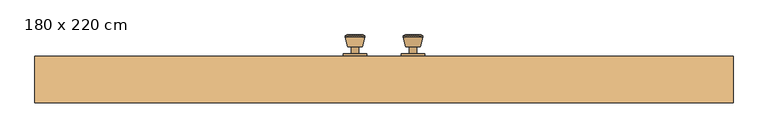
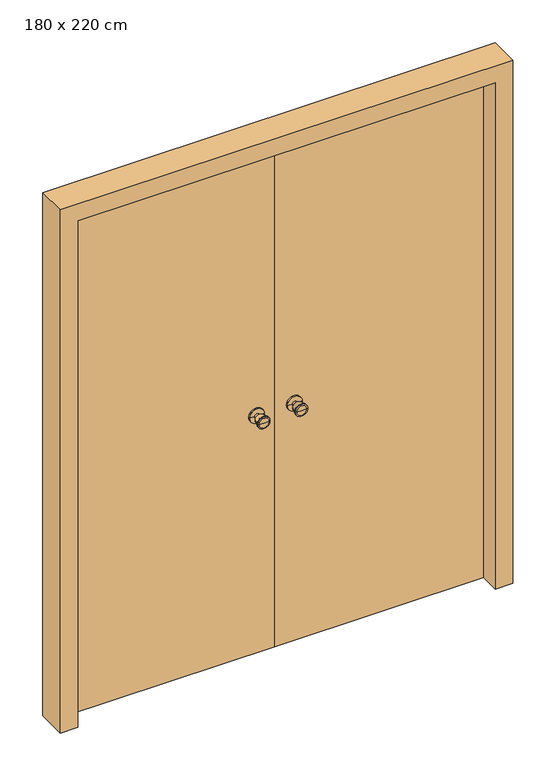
"""IFC4 building model written with IfcOpenShell, lengths in millimetres: door geometry, 雙開-矩形- (1) : 180 x 220 cm."""

from ifc_helpers import new_model, si_unit, frame, origin, origin_with_axes, place, context, project, spatial, polyline, circle_curve, outline, extrude, faceted_brep, source, transform, mapped, element, save
from ifc_brep_helpers import plane_surface, cylinder_surface, revolved_surface, advanced_brep


def door_180_x_220_cm_38ff8c34(model_context):
    return source(origin(), model_context, "Body", "SolidModel", [
        advanced_brep(
        [(45.0, 66.0, 1000.0), (105.0, 66.0, 1000.0), (105.0, 60.0, 1000.0), (45.0, 60.0, 1000.0), (65.0, 66.0, 1000.0), (85.0, 66.0, 1000.0), (65.0, 85.0, 1000.0), (85.0, 85.0, 1000.0), (56.4, 85.0, 1000.0), (93.6, 85.0, 1000.0), (50.0, 109.7, 1000.0), (100.0, 109.7, 1000.0), (50.0, 113.2, 1000.0), (100.0, 113.2, 1000.0), (54.5, 115.0, 1000.0), (95.5, 115.0, 1000.0), (75.0, 115.0, 1000.0), (75.0, 60.0, 1000.0)],
        [
            (0, 1, circle_curve(frame((75.0, 66.0, 1000.0), z_axis=(0.0, -1.0, 0.0), x_axis=(1.0, 0.0, 0.0)), 30.0)),
            (1, 2),
            (2, 3, circle_curve(frame((75.0, 60.0, 1000.0), z_axis=(0.0, 1.0, 0.0), x_axis=(1.0, 0.0, 0.0)), 30.0)),
            (3, 0),
            (1, 0, circle_curve(frame((75.0, 66.0, 1000.0), z_axis=(0.0, -1.0, 0.0), x_axis=(1.0, 0.0, 0.0)), 30.0)),
            (3, 2, circle_curve(frame((75.0, 60.0, 1000.0), z_axis=(0.0, 1.0, 0.0), x_axis=(1.0, 0.0, 0.0)), 30.0)),
            (4, 5, circle_curve(frame((75.0, 66.0, 1000.0), z_axis=(0.0, -1.0, 0.0), x_axis=(1.0, 0.0, 0.0)), 10.0)),
            (5, 1),
            (0, 4),
            (5, 4, circle_curve(frame((75.0, 66.0, 1000.0), z_axis=(0.0, -1.0, 0.0), x_axis=(1.0, 0.0, 0.0)), 10.0)),
            (6, 7, circle_curve(frame((75.0, 85.0, 1000.0), z_axis=(0.0, -1.0, 0.0), x_axis=(1.0, 0.0, 0.0)), 10.0)),
            (7, 5),
            (4, 6),
            (7, 6, circle_curve(frame((75.0, 85.0, 1000.0), z_axis=(0.0, -1.0, 0.0), x_axis=(1.0, 0.0, 0.0)), 10.0)),
            (8, 9, circle_curve(frame((75.0, 85.0, 1000.0), z_axis=(0.0, -1.0, 0.0), x_axis=(1.0, 0.0, 0.0)), 18.6)),
            (9, 7),
            (6, 8),
            (9, 8, circle_curve(frame((75.0, 85.0, 1000.0), z_axis=(0.0, -1.0, 0.0), x_axis=(1.0, 0.0, 0.0)), 18.6)),
            (10, 11, circle_curve(frame((75.0, 109.7, 1000.0), z_axis=(0.0, -1.0, 0.0), x_axis=(1.0, 0.0, 0.0)), 25.0)),
            (11, 9),
            (8, 10),
            (11, 10, circle_curve(frame((75.0, 109.7, 1000.0), z_axis=(0.0, -1.0, 0.0), x_axis=(1.0, 0.0, 0.0)), 25.0)),
            (12, 13, circle_curve(frame((75.0, 113.2, 1000.0), z_axis=(0.0, -1.0, 0.0), x_axis=(1.0, 0.0, 0.0)), 25.0)),
            (13, 11),
            (10, 12),
            (13, 12, circle_curve(frame((75.0, 113.2, 1000.0), z_axis=(0.0, -1.0, 0.0), x_axis=(1.0, 0.0, 0.0)), 25.0)),
            (14, 15, circle_curve(frame((75.0, 115.0, 1000.0), z_axis=(0.0, -1.0, 0.0), x_axis=(1.0, 0.0, 0.0)), 20.5)),
            (15, 13),
            (12, 14),
            (15, 14, circle_curve(frame((75.0, 115.0, 1000.0), z_axis=(0.0, -1.0, 0.0), x_axis=(1.0, 0.0, 0.0)), 20.5)),
            (16, 15),
            (14, 16),
            (2, 17),
            (17, 3),
        ],
        [
            cylinder_surface(frame((75.0, 0.0, 1000.0), z_axis=(0.0, 1.0, 0.0), x_axis=(1.0, 0.0, 0.0)), 30.0),
            plane_surface(frame((75.0, 66.0, 1000.0), z_axis=(0.0, 1.0, 0.0), x_axis=(1.0, 0.0, 0.0))),
            cylinder_surface(frame((75.0, 0.0, 1000.0), z_axis=(0.0, 1.0, 0.0), x_axis=(1.0, 0.0, 0.0)), 10.0),
            plane_surface(frame((75.0, 85.0, 1000.0), z_axis=(0.0, -1.0, 0.0), x_axis=(1.0, 0.0, 0.0))),
            revolved_surface(polyline([(93.6, 85.0, 1000.0), (100.0, 109.7, 1000.0)]), (75.0, 0.0, 1000.0), (0.0, 1.0, 0.0)),
            cylinder_surface(frame((75.0, 0.0, 1000.0), z_axis=(0.0, 1.0, 0.0), x_axis=(1.0, 0.0, 0.0)), 25.0),
            revolved_surface(polyline([(100.0, 113.2, 1000.0), (95.5, 115.0, 1000.0)]), (75.0, 0.0, 1000.0), (0.0, 1.0, 0.0)),
            plane_surface(frame((75.0, 115.0, 1000.0), z_axis=(0.0, 1.0, 0.0), x_axis=(1.0, 0.0, 0.0))),
            plane_surface(frame((75.0, 60.0, 1000.0), z_axis=(0.0, -1.0, 0.0), x_axis=(1.0, 0.0, 0.0))),
        ],
        [
            (0, [[1, 2, 3, 4]]),
            (0, [[5, -4, 6, -2]]),
            (1, [[7, 8, -1, 9]]),
            (1, [[10, -9, -5, -8]]),
            (2, [[11, 12, -7, 13]]),
            (2, [[14, -13, -10, -12]]),
            (3, [[15, 16, -11, 17]]),
            (3, [[18, -17, -14, -16]]),
            (4, [[19, 20, -15, 21]]),
            (4, [[22, -21, -18, -20]]),
            (5, [[23, 24, -19, 25]]),
            (5, [[26, -25, -22, -24]]),
            (6, [[27, 28, -23, 29]]),
            (6, [[30, -29, -26, -28]]),
            (7, [[31, -27, 32]]),
            (7, [[-32, -30, -31]]),
            (8, [[-3, 33, 34]]),
            (8, [[-6, -34, -33]]),
        ],
    ),
        advanced_brep(
        [(-45.0, 14.0, 1000.0), (-105.0, 14.0, 1000.0), (-105.0, 20.0, 1000.0), (-45.0, 20.0, 1000.0), (-65.0, 14.0, 1000.0), (-85.0, 14.0, 1000.0), (-65.0, -5.0, 1000.0), (-85.0, -5.0, 1000.0), (-56.4, -5.0, 1000.0), (-93.6, -5.0, 1000.0), (-50.0, -29.7, 1000.0), (-100.0, -29.7, 1000.0), (-50.0, -33.2, 1000.0), (-100.0, -33.2, 1000.0), (-54.5, -35.0, 1000.0), (-95.5, -35.0, 1000.0), (-75.0, -35.0, 1000.0), (-75.0, 20.0, 1000.0)],
        [
            (0, 1, circle_curve(frame((-75.0, 14.0, 1000.0), z_axis=(0.0, 1.0, 0.0), x_axis=(-1.0, 0.0, 0.0)), 30.0)),
            (1, 2),
            (2, 3, circle_curve(frame((-75.0, 20.0, 1000.0), z_axis=(0.0, -1.0, 0.0), x_axis=(-1.0, 0.0, 0.0)), 30.0)),
            (3, 0),
            (1, 0, circle_curve(frame((-75.0, 14.0, 1000.0), z_axis=(0.0, 1.0, 0.0), x_axis=(-1.0, 0.0, 0.0)), 30.0)),
            (3, 2, circle_curve(frame((-75.0, 20.0, 1000.0), z_axis=(0.0, -1.0, 0.0), x_axis=(-1.0, 0.0, 0.0)), 30.0)),
            (4, 5, circle_curve(frame((-75.0, 14.0, 1000.0), z_axis=(0.0, 1.0, 0.0), x_axis=(-1.0, 0.0, 0.0)), 10.0)),
            (5, 1),
            (0, 4),
            (5, 4, circle_curve(frame((-75.0, 14.0, 1000.0), z_axis=(0.0, 1.0, 0.0), x_axis=(-1.0, 0.0, 0.0)), 10.0)),
            (6, 7, circle_curve(frame((-75.0, -5.0, 1000.0), z_axis=(0.0, 1.0, 0.0), x_axis=(-1.0, 0.0, 0.0)), 10.0)),
            (7, 5),
            (4, 6),
            (7, 6, circle_curve(frame((-75.0, -5.0, 1000.0), z_axis=(0.0, 1.0, 0.0), x_axis=(-1.0, 0.0, 0.0)), 10.0)),
            (8, 9, circle_curve(frame((-75.0, -5.0, 1000.0), z_axis=(0.0, 1.0, 0.0), x_axis=(-1.0, 0.0, 0.0)), 18.6)),
            (9, 7),
            (6, 8),
            (9, 8, circle_curve(frame((-75.0, -5.0, 1000.0), z_axis=(0.0, 1.0, 0.0), x_axis=(-1.0, 0.0, 0.0)), 18.6)),
            (10, 11, circle_curve(frame((-75.0, -29.7, 1000.0), z_axis=(0.0, 1.0, 0.0), x_axis=(-1.0, 0.0, 0.0)), 25.0)),
            (11, 9),
            (8, 10),
            (11, 10, circle_curve(frame((-75.0, -29.7, 1000.0), z_axis=(0.0, 1.0, 0.0), x_axis=(-1.0, 0.0, 0.0)), 25.0)),
            (12, 13, circle_curve(frame((-75.0, -33.2, 1000.0), z_axis=(0.0, 1.0, 0.0), x_axis=(-1.0, 0.0, 0.0)), 25.0)),
            (13, 11),
            (10, 12),
            (13, 12, circle_curve(frame((-75.0, -33.2, 1000.0), z_axis=(0.0, 1.0, 0.0), x_axis=(-1.0, 0.0, 0.0)), 25.0)),
            (14, 15, circle_curve(frame((-75.0, -35.0, 1000.0), z_axis=(0.0, 1.0, 0.0), x_axis=(-1.0, 0.0, 0.0)), 20.5)),
            (15, 13),
            (12, 14),
            (15, 14, circle_curve(frame((-75.0, -35.0, 1000.0), z_axis=(0.0, 1.0, 0.0), x_axis=(-1.0, 0.0, 0.0)), 20.5)),
            (16, 15),
            (14, 16),
            (2, 17),
            (17, 3),
        ],
        [
            cylinder_surface(frame((-75.0, 80.0, 1000.0), z_axis=(0.0, -1.0, 0.0), x_axis=(-1.0, 0.0, 0.0)), 30.0),
            plane_surface(frame((-75.0, 14.0, 1000.0), z_axis=(0.0, -1.0, 0.0), x_axis=(-1.0, 0.0, 0.0))),
            cylinder_surface(frame((-75.0, 80.0, 1000.0), z_axis=(0.0, -1.0, 0.0), x_axis=(-1.0, 0.0, 0.0)), 10.0),
            plane_surface(frame((-75.0, -5.0, 1000.0), z_axis=(0.0, 1.0, 0.0), x_axis=(-1.0, 0.0, 0.0))),
            revolved_surface(polyline([(-93.6, -5.0, 1000.0), (-100.0, -29.7, 1000.0)]), (-75.0, 80.0, 1000.0), (0.0, -1.0, 0.0)),
            cylinder_surface(frame((-75.0, 80.0, 1000.0), z_axis=(0.0, -1.0, 0.0), x_axis=(-1.0, 0.0, 0.0)), 25.0),
            revolved_surface(polyline([(-100.0, -33.2, 1000.0), (-95.5, -35.0, 1000.0)]), (-75.0, 80.0, 1000.0), (0.0, -1.0, 0.0)),
            plane_surface(frame((-75.0, -35.0, 1000.0), z_axis=(0.0, -1.0, 0.0), x_axis=(-1.0, 0.0, 0.0))),
            plane_surface(frame((-75.0, 20.0, 1000.0), z_axis=(0.0, 1.0, 0.0), x_axis=(-1.0, 0.0, 0.0))),
        ],
        [
            (0, [[1, 2, 3, 4]]),
            (0, [[5, -4, 6, -2]]),
            (1, [[7, 8, -1, 9]]),
            (1, [[10, -9, -5, -8]]),
            (2, [[11, 12, -7, 13]]),
            (2, [[14, -13, -10, -12]]),
            (3, [[15, 16, -11, 17]]),
            (3, [[18, -17, -14, -16]]),
            (4, [[19, 20, -15, 21]]),
            (4, [[22, -21, -18, -20]]),
            (5, [[23, 24, -19, 25]]),
            (5, [[26, -25, -22, -24]]),
            (6, [[27, 28, -23, 29]]),
            (6, [[30, -29, -26, -28]]),
            (7, [[31, -27, 32]]),
            (7, [[-32, -30, -31]]),
            (8, [[-3, 33, 34]]),
            (8, [[-6, -34, -33]]),
        ],
    ),
        advanced_brep(
        [(45.0, 14.0, 1000.0), (45.0, 20.0, 1000.0), (105.0, 20.0, 1000.0), (105.0, 14.0, 1000.0), (65.0, 14.0, 1000.0), (85.0, 14.0, 1000.0), (65.0, -5.0, 1000.0), (85.0, -5.0, 1000.0), (56.4, -5.0, 1000.0), (93.6, -5.0, 1000.0), (50.0, -29.7, 1000.0), (100.0, -29.7, 1000.0), (50.0, -33.2, 1000.0), (100.0, -33.2, 1000.0), (54.5, -35.0, 1000.0), (95.5, -35.0, 1000.0), (75.0, -35.0, 1000.0), (75.0, 20.0, 1000.0)],
        [
            (0, 1),
            (1, 2, circle_curve(frame((75.0, 20.0, 1000.0), z_axis=(0.0, -1.0, 0.0), x_axis=(1.0, 0.0, 0.0)), 30.0)),
            (2, 3),
            (3, 0, circle_curve(frame((75.0, 14.0, 1000.0), z_axis=(0.0, 1.0, 0.0), x_axis=(1.0, 0.0, 0.0)), 30.0)),
            (2, 1, circle_curve(frame((75.0, 20.0, 1000.0), z_axis=(0.0, -1.0, 0.0), x_axis=(1.0, 0.0, 0.0)), 30.0)),
            (0, 3, circle_curve(frame((75.0, 14.0, 1000.0), z_axis=(0.0, 1.0, 0.0), x_axis=(1.0, 0.0, 0.0)), 30.0)),
            (4, 0),
            (3, 5),
            (5, 4, circle_curve(frame((75.0, 14.0, 1000.0), z_axis=(0.0, 1.0, 0.0), x_axis=(1.0, 0.0, 0.0)), 10.0)),
            (4, 5, circle_curve(frame((75.0, 14.0, 1000.0), z_axis=(0.0, 1.0, 0.0), x_axis=(1.0, 0.0, 0.0)), 10.0)),
            (6, 4),
            (5, 7),
            (7, 6, circle_curve(frame((75.0, -5.0, 1000.0), z_axis=(0.0, 1.0, 0.0), x_axis=(1.0, 0.0, 0.0)), 10.0)),
            (6, 7, circle_curve(frame((75.0, -5.0, 1000.0), z_axis=(0.0, 1.0, 0.0), x_axis=(1.0, 0.0, 0.0)), 10.0)),
            (8, 6),
            (7, 9),
            (9, 8, circle_curve(frame((75.0, -5.0, 1000.0), z_axis=(0.0, 1.0, 0.0), x_axis=(1.0, 0.0, 0.0)), 18.6)),
            (8, 9, circle_curve(frame((75.0, -5.0, 1000.0), z_axis=(0.0, 1.0, 0.0), x_axis=(1.0, 0.0, 0.0)), 18.6)),
            (10, 8),
            (9, 11),
            (11, 10, circle_curve(frame((75.0, -29.7, 1000.0), z_axis=(0.0, 1.0, 0.0), x_axis=(1.0, 0.0, 0.0)), 25.0)),
            (10, 11, circle_curve(frame((75.0, -29.7, 1000.0), z_axis=(0.0, 1.0, 0.0), x_axis=(1.0, 0.0, 0.0)), 25.0)),
            (12, 10),
            (11, 13),
            (13, 12, circle_curve(frame((75.0, -33.2, 1000.0), z_axis=(0.0, 1.0, 0.0), x_axis=(1.0, 0.0, 0.0)), 25.0)),
            (12, 13, circle_curve(frame((75.0, -33.2, 1000.0), z_axis=(0.0, 1.0, 0.0), x_axis=(1.0, 0.0, 0.0)), 25.0)),
            (14, 12),
            (13, 15),
            (15, 14, circle_curve(frame((75.0, -35.0, 1000.0), z_axis=(0.0, 1.0, 0.0), x_axis=(1.0, 0.0, 0.0)), 20.5)),
            (14, 15, circle_curve(frame((75.0, -35.0, 1000.0), z_axis=(0.0, 1.0, 0.0), x_axis=(1.0, 0.0, 0.0)), 20.5)),
            (16, 14),
            (15, 16),
            (1, 17),
            (17, 2),
        ],
        [
            cylinder_surface(frame((75.0, 80.0, 1000.0), z_axis=(0.0, -1.0, 0.0), x_axis=(1.0, 0.0, 0.0)), 30.0),
            plane_surface(frame((75.0, 14.0, 1000.0), z_axis=(0.0, -1.0, 0.0), x_axis=(1.0, 0.0, 0.0))),
            cylinder_surface(frame((75.0, 80.0, 1000.0), z_axis=(0.0, -1.0, 0.0), x_axis=(1.0, 0.0, 0.0)), 10.0),
            plane_surface(frame((75.0, -5.0, 1000.0), z_axis=(0.0, 1.0, 0.0), x_axis=(1.0, 0.0, 0.0))),
            revolved_surface(polyline([(93.6, -5.0, 1000.0), (100.0, -29.7, 1000.0)]), (75.0, 80.0, 1000.0), (0.0, -1.0, 0.0)),
            cylinder_surface(frame((75.0, 80.0, 1000.0), z_axis=(0.0, -1.0, 0.0), x_axis=(1.0, 0.0, 0.0)), 25.0),
            revolved_surface(polyline([(100.0, -33.2, 1000.0), (95.5, -35.0, 1000.0)]), (75.0, 80.0, 1000.0), (0.0, -1.0, 0.0)),
            plane_surface(frame((75.0, -35.0, 1000.0), z_axis=(0.0, -1.0, 0.0), x_axis=(1.0, 0.0, 0.0))),
            plane_surface(frame((75.0, 20.0, 1000.0), z_axis=(0.0, 1.0, 0.0), x_axis=(1.0, 0.0, 0.0))),
        ],
        [
            (0, [[1, 2, 3, 4]]),
            (0, [[-3, 5, -1, 6]]),
            (1, [[7, -4, 8, 9]]),
            (1, [[-8, -6, -7, 10]]),
            (2, [[11, -9, 12, 13]]),
            (2, [[-12, -10, -11, 14]]),
            (3, [[15, -13, 16, 17]]),
            (3, [[-16, -14, -15, 18]]),
            (4, [[19, -17, 20, 21]]),
            (4, [[-20, -18, -19, 22]]),
            (5, [[23, -21, 24, 25]]),
            (5, [[-24, -22, -23, 26]]),
            (6, [[27, -25, 28, 29]]),
            (6, [[-28, -26, -27, 30]]),
            (7, [[31, -29, 32]]),
            (7, [[-32, -30, -31]]),
            (8, [[33, 34, -2]]),
            (8, [[-34, -33, -5]]),
        ],
    ),
        advanced_brep(
        [(-45.0, 66.0, 1000.0), (-45.0, 60.0, 1000.0), (-105.0, 60.0, 1000.0), (-105.0, 66.0, 1000.0), (-65.0, 66.0, 1000.0), (-85.0, 66.0, 1000.0), (-65.0, 85.0, 1000.0), (-85.0, 85.0, 1000.0), (-56.4, 85.0, 1000.0), (-93.6, 85.0, 1000.0), (-50.0, 109.7, 1000.0), (-100.0, 109.7, 1000.0), (-50.0, 113.2, 1000.0), (-100.0, 113.2, 1000.0), (-54.5, 115.0, 1000.0), (-95.5, 115.0, 1000.0), (-75.0, 115.0, 1000.0), (-75.0, 60.0, 1000.0)],
        [
            (0, 1),
            (1, 2, circle_curve(frame((-75.0, 60.0, 1000.0), z_axis=(0.0, 1.0, 0.0), x_axis=(-1.0, 0.0, 0.0)), 30.0)),
            (2, 3),
            (3, 0, circle_curve(frame((-75.0, 66.0, 1000.0), z_axis=(0.0, -1.0, 0.0), x_axis=(-1.0, 0.0, 0.0)), 30.0)),
            (2, 1, circle_curve(frame((-75.0, 60.0, 1000.0), z_axis=(0.0, 1.0, 0.0), x_axis=(-1.0, 0.0, 0.0)), 30.0)),
            (0, 3, circle_curve(frame((-75.0, 66.0, 1000.0), z_axis=(0.0, -1.0, 0.0), x_axis=(-1.0, 0.0, 0.0)), 30.0)),
            (4, 0),
            (3, 5),
            (5, 4, circle_curve(frame((-75.0, 66.0, 1000.0), z_axis=(0.0, -1.0, 0.0), x_axis=(-1.0, 0.0, 0.0)), 10.0)),
            (4, 5, circle_curve(frame((-75.0, 66.0, 1000.0), z_axis=(0.0, -1.0, 0.0), x_axis=(-1.0, 0.0, 0.0)), 10.0)),
            (6, 4),
            (5, 7),
            (7, 6, circle_curve(frame((-75.0, 85.0, 1000.0), z_axis=(0.0, -1.0, 0.0), x_axis=(-1.0, 0.0, 0.0)), 10.0)),
            (6, 7, circle_curve(frame((-75.0, 85.0, 1000.0), z_axis=(0.0, -1.0, 0.0), x_axis=(-1.0, 0.0, 0.0)), 10.0)),
            (8, 6),
            (7, 9),
            (9, 8, circle_curve(frame((-75.0, 85.0, 1000.0), z_axis=(0.0, -1.0, 0.0), x_axis=(-1.0, 0.0, 0.0)), 18.6)),
            (8, 9, circle_curve(frame((-75.0, 85.0, 1000.0), z_axis=(0.0, -1.0, 0.0), x_axis=(-1.0, 0.0, 0.0)), 18.6)),
            (10, 8),
            (9, 11),
            (11, 10, circle_curve(frame((-75.0, 109.7, 1000.0), z_axis=(0.0, -1.0, 0.0), x_axis=(-1.0, 0.0, 0.0)), 25.0)),
            (10, 11, circle_curve(frame((-75.0, 109.7, 1000.0), z_axis=(0.0, -1.0, 0.0), x_axis=(-1.0, 0.0, 0.0)), 25.0)),
            (12, 10),
            (11, 13),
            (13, 12, circle_curve(frame((-75.0, 113.2, 1000.0), z_axis=(0.0, -1.0, 0.0), x_axis=(-1.0, 0.0, 0.0)), 25.0)),
            (12, 13, circle_curve(frame((-75.0, 113.2, 1000.0), z_axis=(0.0, -1.0, 0.0), x_axis=(-1.0, 0.0, 0.0)), 25.0)),
            (14, 12),
            (13, 15),
            (15, 14, circle_curve(frame((-75.0, 115.0, 1000.0), z_axis=(0.0, -1.0, 0.0), x_axis=(-1.0, 0.0, 0.0)), 20.5)),
            (14, 15, circle_curve(frame((-75.0, 115.0, 1000.0), z_axis=(0.0, -1.0, 0.0), x_axis=(-1.0, 0.0, 0.0)), 20.5)),
            (16, 14),
            (15, 16),
            (1, 17),
            (17, 2),
        ],
        [
            cylinder_surface(frame((-75.0, 0.0, 1000.0), z_axis=(0.0, 1.0, 0.0), x_axis=(-1.0, 0.0, 0.0)), 30.0),
            plane_surface(frame((-75.0, 66.0, 1000.0), z_axis=(0.0, 1.0, 0.0), x_axis=(-1.0, 0.0, 0.0))),
            cylinder_surface(frame((-75.0, 0.0, 1000.0), z_axis=(0.0, 1.0, 0.0), x_axis=(-1.0, 0.0, 0.0)), 10.0),
            plane_surface(frame((-75.0, 85.0, 1000.0), z_axis=(0.0, -1.0, 0.0), x_axis=(-1.0, 0.0, 0.0))),
            revolved_surface(polyline([(-93.6, 85.0, 1000.0), (-100.0, 109.7, 1000.0)]), (-75.0, 0.0, 1000.0), (0.0, 1.0, 0.0)),
            cylinder_surface(frame((-75.0, 0.0, 1000.0), z_axis=(0.0, 1.0, 0.0), x_axis=(-1.0, 0.0, 0.0)), 25.0),
            revolved_surface(polyline([(-100.0, 113.2, 1000.0), (-95.5, 115.0, 1000.0)]), (-75.0, 0.0, 1000.0), (0.0, 1.0, 0.0)),
            plane_surface(frame((-75.0, 115.0, 1000.0), z_axis=(0.0, 1.0, 0.0), x_axis=(-1.0, 0.0, 0.0))),
            plane_surface(frame((-75.0, 60.0, 1000.0), z_axis=(0.0, -1.0, 0.0), x_axis=(-1.0, 0.0, 0.0))),
        ],
        [
            (0, [[1, 2, 3, 4]]),
            (0, [[-3, 5, -1, 6]]),
            (1, [[7, -4, 8, 9]]),
            (1, [[-8, -6, -7, 10]]),
            (2, [[11, -9, 12, 13]]),
            (2, [[-12, -10, -11, 14]]),
            (3, [[15, -13, 16, 17]]),
            (3, [[-16, -14, -15, 18]]),
            (4, [[19, -17, 20, 21]]),
            (4, [[-20, -18, -19, 22]]),
            (5, [[23, -21, 24, 25]]),
            (5, [[-24, -22, -23, 26]]),
            (6, [[27, -25, 28, 29]]),
            (6, [[-28, -26, -27, 30]]),
            (7, [[31, -29, 32]]),
            (7, [[-32, -30, -31]]),
            (8, [[33, 34, -2]]),
            (8, [[-34, -33, -5]]),
        ],
    ),
        extrude(outline(polyline([(0.0, 60.0), (850.0, 60.0), (850.0, 20.0), (0.0, 20.0), (0.0, 60.0)])), origin_with_axes(), (0.0, 0.0, 1.0), 2150.0),
        extrude(outline(polyline([(-850.0, 60.0), (0.0, 60.0), (0.0, 20.0), (-850.0, 20.0), (-850.0, 60.0)])), origin_with_axes(), (0.0, 0.0, 1.0), 2150.0),
        faceted_brep([(850.0, 60.0, 0.0), (900.0, 60.0, 0.0), (900.0, -60.0, 0.0), (830.0, -60.0, 0.0), (830.0, 20.0, 0.0), (850.0, 20.0, 0.0), (850.0, 60.0, 2150.0), (-850.0, 60.0, 2150.0), (-850.0, 60.0, 0.0), (-900.0, 60.0, 0.0), (-900.0, 60.0, 2200.0), (900.0, 60.0, 2200.0), (900.0, -60.0, 2200.0), (-900.0, -60.0, 2200.0), (-900.0, -60.0, 0.0), (-830.0, -60.0, 0.0), (-830.0, -60.0, 2130.0), (830.0, -60.0, 2130.0), (830.0, 20.0, 2130.0), (-830.0, 20.0, 2130.0), (-830.0, 20.0, 0.0), (-850.0, 20.0, 0.0), (-850.0, 20.0, 2150.0), (850.0, 20.0, 2150.0)], [[[0, 1, 2, 3, 4, 5]], [[1, 0, 6, 7, 8, 9, 10, 11]], [[2, 1, 11, 12]], [[3, 2, 12, 13, 14, 15, 16, 17]], [[4, 3, 17, 18]], [[5, 4, 18, 19, 20, 21, 22, 23]], [[0, 5, 23, 6]], [[12, 11, 10, 13]], [[18, 17, 16, 19]], [[6, 23, 22, 7]], [[8, 21, 20, 15, 14, 9]], [[13, 10, 9, 14]], [[19, 16, 15, 20]], [[7, 22, 21, 8]]]),
    ])


if __name__ == "__main__":
    model = new_model("IFC4")
    model_context = context("Model", 3, world=origin())
    ifc_project = project(units=[si_unit("LENGTHUNIT", "METRE", prefix="MILLI")], contexts=[model_context])
    site = spatial("IfcSite", under=ifc_project)
    building = spatial("IfcBuilding", under=site)
    placement = place(None, origin())
    door_180_x_220_cm_shape = door_180_x_220_cm_38ff8c34(model_context)
    element("IfcDoor", 1, ObjectType="雙開-矩形- (1) : 180 x 220 cm", at=placement, inside=building, context=model_context, shape_type="MappedRepresentation", body=[
        mapped(door_180_x_220_cm_shape, transform((0.0, 0.0, 0.0), x_axis=(1.0, 0.0, 0.0), y_axis=(0.0, 1.0, 0.0), z_axis=(0.0, 0.0, 1.0))),
    ])
    save(model, "model.ifc")
